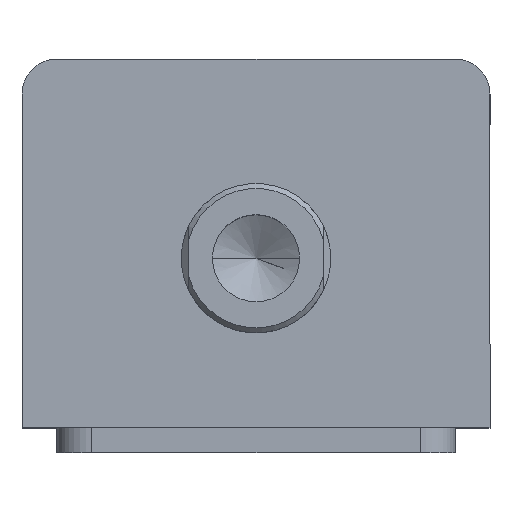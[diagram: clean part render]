
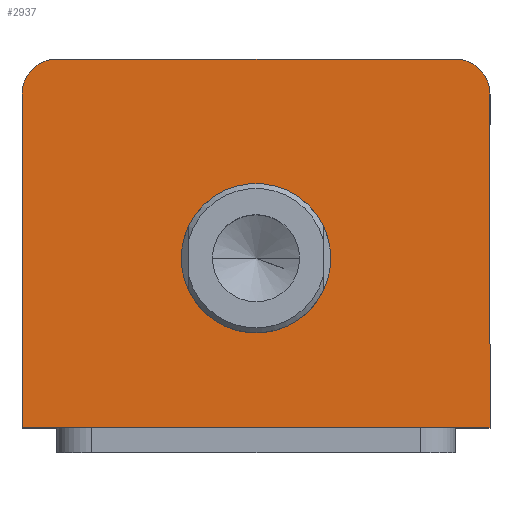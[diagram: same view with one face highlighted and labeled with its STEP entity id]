
A CAD part, top view. The second image highlights one B-rep face of the part: STEP entity #2937.
In plain terms, the highlighted planar face has unit normal (0, 0, 1).
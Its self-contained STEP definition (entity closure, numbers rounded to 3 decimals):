
#34 = VERTEX_POINT ( 'NONE', #736 ) ;
#275 = VERTEX_POINT ( 'NONE', #726 ) ;
#404 = ORIENTED_EDGE ( 'NONE', *, *, #2173, .T. ) ;
#408 = ORIENTED_EDGE ( 'NONE', *, *, #2899, .T. ) ;
#409 = ORIENTED_EDGE ( 'NONE', *, *, #2192, .T. ) ;
#410 = ORIENTED_EDGE ( 'NONE', *, *, #2148, .T. ) ;
#411 = ORIENTED_EDGE ( 'NONE', *, *, #2884, .T. ) ;
#412 = ORIENTED_EDGE ( 'NONE', *, *, #2139, .T. ) ;
#413 = ORIENTED_EDGE ( 'NONE', *, *, #2861, .F. ) ;
#414 = ORIENTED_EDGE ( 'NONE', *, *, #2163, .F. ) ;
#458 = CIRCLE ( 'NONE', #2310, 7. ) ;
#472 = LINE ( 'NONE', #1166, #475 ) ;
#475 = VECTOR ( 'NONE', #1161, 1000. ) ;
#500 = CIRCLE ( 'NONE', #2290, 15. ) ;
#513 = LINE ( 'NONE', #1405, #516 ) ;
#516 = VECTOR ( 'NONE', #1404, 1000. ) ;
#544 = CIRCLE ( 'NONE', #2319, 7. ) ;
#566 = VERTEX_POINT ( 'NONE', #724 ) ;
#575 = VERTEX_POINT ( 'NONE', #711 ) ;
#597 = VERTEX_POINT ( 'NONE', #687 ) ;
#687 = CARTESIAN_POINT ( 'NONE',  ( 47., -37., 80. ) ) ;
#711 = CARTESIAN_POINT ( 'NONE',  ( 15., -3., 80. ) ) ;
#724 = CARTESIAN_POINT ( 'NONE',  ( -15., -3., 80. ) ) ;
#726 = CARTESIAN_POINT ( 'NONE',  ( 47., 30., 80. ) ) ;
#732 = CARTESIAN_POINT ( 'NONE',  ( -40., 37., 80. ) ) ;
#736 = CARTESIAN_POINT ( 'NONE',  ( -47., 30., 80. ) ) ;
#747 = CARTESIAN_POINT ( 'NONE',  ( 40., 37., 80. ) ) ;
#797 = CARTESIAN_POINT ( 'NONE',  ( -47., -37., 80. ) ) ;
#806 = VERTEX_POINT ( 'NONE', #797 ) ;
#1161 = DIRECTION ( 'NONE',  ( 0., -1., 0. ) ) ;
#1166 = CARTESIAN_POINT ( 'NONE',  ( -47., 37., 80. ) ) ;
#1272 = DIRECTION ( 'NONE',  ( 1., 0., 0. ) ) ;
#1274 = DIRECTION ( 'NONE',  ( 0., 0., 1. ) ) ;
#1276 = CARTESIAN_POINT ( 'NONE',  ( -40., 30., 80. ) ) ;
#1340 = DIRECTION ( 'NONE',  ( 1., 0., 0. ) ) ;
#1341 = DIRECTION ( 'NONE',  ( 0., 0., 1. ) ) ;
#1343 = CARTESIAN_POINT ( 'NONE',  ( 40., 30., 80. ) ) ;
#1404 = DIRECTION ( 'NONE',  ( -1., 0., 0. ) ) ;
#1405 = CARTESIAN_POINT ( 'NONE',  ( -47., 37., 80. ) ) ;
#1441 = DIRECTION ( 'NONE',  ( 1., 0., 0. ) ) ;
#1442 = DIRECTION ( 'NONE',  ( 0., 0., 1. ) ) ;
#1443 = CARTESIAN_POINT ( 'NONE',  ( 0., -3., 80. ) ) ;
#1480 = VERTEX_POINT ( 'NONE', #747 ) ;
#1487 = VERTEX_POINT ( 'NONE', #732 ) ;
#1636 = DIRECTION ( 'NONE',  ( 0., 1., 0. ) ) ;
#1640 = CARTESIAN_POINT ( 'NONE',  ( 47., 37., 80. ) ) ;
#1721 = DIRECTION ( 'NONE',  ( 1., 0., 0. ) ) ;
#1731 = CARTESIAN_POINT ( 'NONE',  ( -47., -37., 80. ) ) ;
#1882 = DIRECTION ( 'NONE',  ( 0., 0., 1. ) ) ;
#1904 = DIRECTION ( 'NONE',  ( 1., 0., 0. ) ) ;
#1910 = CARTESIAN_POINT ( 'NONE',  ( 0., -3., 80. ) ) ;
#1936 = DIRECTION ( 'NONE',  ( 1., 0., 0. ) ) ;
#1938 = DIRECTION ( 'NONE',  ( 0., 0., 1. ) ) ;
#1944 = PLANE ( 'NONE',  #2065 ) ;
#1945 = CARTESIAN_POINT ( 'NONE',  ( 0., 0., 80. ) ) ;
#2065 = AXIS2_PLACEMENT_3D ( 'NONE', #1945, #1938, #1936 ) ;
#2095 = AXIS2_PLACEMENT_3D ( 'NONE', #1910, #1882, #1904 ) ;
#2139 = EDGE_CURVE ( 'NONE', #1487, #34, #458, .T. ) ;
#2148 = EDGE_CURVE ( 'NONE', #34, #806, #472, .T. ) ;
#2163 = EDGE_CURVE ( 'NONE', #575, #566, #500, .T. ) ;
#2173 = EDGE_CURVE ( 'NONE', #1480, #1487, #513, .T. ) ;
#2192 = EDGE_CURVE ( 'NONE', #275, #1480, #544, .T. ) ;
#2290 = AXIS2_PLACEMENT_3D ( 'NONE', #1443, #1442, #1441 ) ;
#2310 = AXIS2_PLACEMENT_3D ( 'NONE', #1276, #1274, #1272 ) ;
#2319 = AXIS2_PLACEMENT_3D ( 'NONE', #1343, #1341, #1340 ) ;
#2572 = CIRCLE ( 'NONE', #2095, 15. ) ;
#2609 = LINE ( 'NONE', #1731, #2617 ) ;
#2617 = VECTOR ( 'NONE', #1721, 1000. ) ;
#2649 = LINE ( 'NONE', #1640, #2654 ) ;
#2654 = VECTOR ( 'NONE', #1636, 1000. ) ;
#2710 = FACE_BOUND ( 'NONE', #2920, .T. ) ;
#2720 = FACE_OUTER_BOUND ( 'NONE', #2923, .T. ) ;
#2861 = EDGE_CURVE ( 'NONE', #566, #575, #2572, .T. ) ;
#2884 = EDGE_CURVE ( 'NONE', #806, #597, #2609, .T. ) ;
#2899 = EDGE_CURVE ( 'NONE', #597, #275, #2649, .T. ) ;
#2920 = EDGE_LOOP ( 'NONE', ( #414, #413 ) ) ;
#2923 = EDGE_LOOP ( 'NONE', ( #404, #412, #410, #411, #408, #409 ) ) ;
#2937 = ADVANCED_FACE ( 'NONE', ( #2710, #2720 ), #1944, .T. ) ;
